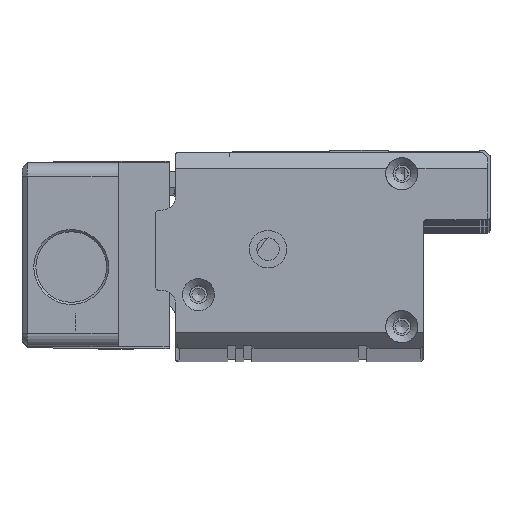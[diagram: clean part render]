
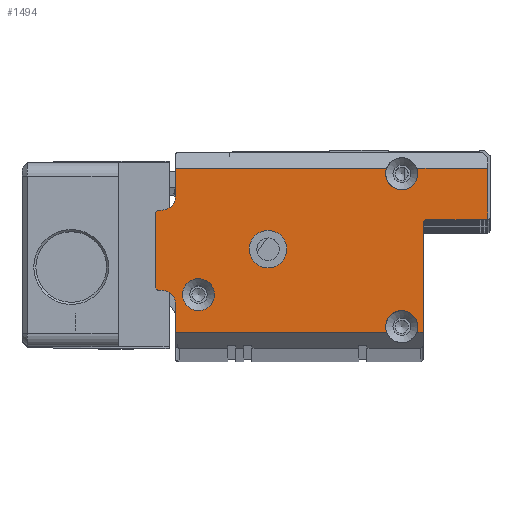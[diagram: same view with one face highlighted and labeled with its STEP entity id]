
A CAD part, top view. The second image highlights one B-rep face of the part: STEP entity #1494.
In plain terms, the highlighted planar face has unit normal (0, 0, 1).
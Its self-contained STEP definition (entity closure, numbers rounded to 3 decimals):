
#1494=ADVANCED_FACE('',(#6423,#6424,#6425),#2417,.T.);
#2417=PLANE('',#18089);
#2993=LINE('',#24957,#4707);
#2994=LINE('',#24959,#4708);
#2995=LINE('',#24963,#4709);
#2996=LINE('',#24967,#4710);
#2997=LINE('',#24969,#4711);
#2998=LINE('',#24973,#4712);
#2999=LINE('',#24975,#4713);
#3000=LINE('',#24979,#4714);
#3001=LINE('',#24983,#4715);
#3002=LINE('',#24987,#4716);
#3003=LINE('',#24991,#4717);
#3004=LINE('',#24993,#4718);
#4707=VECTOR('',#19803,1.);
#4708=VECTOR('',#19804,1.);
#4709=VECTOR('',#19807,1.);
#4710=VECTOR('',#19810,1.);
#4711=VECTOR('',#19811,1.);
#4712=VECTOR('',#19814,1.);
#4713=VECTOR('',#19815,1.);
#4714=VECTOR('',#19818,1.);
#4715=VECTOR('',#19821,1.);
#4716=VECTOR('',#19824,1.);
#4717=VECTOR('',#19827,1.);
#4718=VECTOR('',#19828,1.);
#6423=FACE_BOUND('',#6716,.T.);
#6424=FACE_BOUND('',#6717,.T.);
#6425=FACE_BOUND('',#6718,.T.);
#6716=EDGE_LOOP('',(#7808));
#6717=EDGE_LOOP('',(#7809,#7810,#7811,#7812,#7813,#7814,#7815,#7816,#7817,
#7818,#7819,#7820,#7821,#7822,#7823,#7824,#7825,#7826,#7827,#7828));
#6718=EDGE_LOOP('',(#7829));
#7808=ORIENTED_EDGE('',*,*,#14803,.T.);
#7809=ORIENTED_EDGE('',*,*,#14804,.T.);
#7810=ORIENTED_EDGE('',*,*,#14805,.T.);
#7811=ORIENTED_EDGE('',*,*,#14806,.T.);
#7812=ORIENTED_EDGE('',*,*,#14807,.T.);
#7813=ORIENTED_EDGE('',*,*,#14808,.T.);
#7814=ORIENTED_EDGE('',*,*,#14809,.T.);
#7815=ORIENTED_EDGE('',*,*,#14810,.T.);
#7816=ORIENTED_EDGE('',*,*,#14811,.T.);
#7817=ORIENTED_EDGE('',*,*,#14812,.T.);
#7818=ORIENTED_EDGE('',*,*,#14813,.T.);
#7819=ORIENTED_EDGE('',*,*,#14814,.T.);
#7820=ORIENTED_EDGE('',*,*,#14815,.T.);
#7821=ORIENTED_EDGE('',*,*,#14816,.T.);
#7822=ORIENTED_EDGE('',*,*,#14817,.T.);
#7823=ORIENTED_EDGE('',*,*,#14818,.T.);
#7824=ORIENTED_EDGE('',*,*,#14819,.T.);
#7825=ORIENTED_EDGE('',*,*,#14820,.T.);
#7826=ORIENTED_EDGE('',*,*,#14821,.T.);
#7827=ORIENTED_EDGE('',*,*,#14822,.T.);
#7828=ORIENTED_EDGE('',*,*,#14823,.T.);
#7829=ORIENTED_EDGE('',*,*,#14824,.T.);
#13028=VERTEX_POINT('',#24953);
#13029=VERTEX_POINT('',#24955);
#13030=VERTEX_POINT('',#24956);
#13031=VERTEX_POINT('',#24958);
#13032=VERTEX_POINT('',#24960);
#13033=VERTEX_POINT('',#24962);
#13034=VERTEX_POINT('',#24964);
#13035=VERTEX_POINT('',#24966);
#13036=VERTEX_POINT('',#24968);
#13037=VERTEX_POINT('',#24970);
#13038=VERTEX_POINT('',#24972);
#13039=VERTEX_POINT('',#24974);
#13040=VERTEX_POINT('',#24976);
#13041=VERTEX_POINT('',#24978);
#13042=VERTEX_POINT('',#24980);
#13043=VERTEX_POINT('',#24982);
#13044=VERTEX_POINT('',#24984);
#13045=VERTEX_POINT('',#24986);
#13046=VERTEX_POINT('',#24988);
#13047=VERTEX_POINT('',#24990);
#13048=VERTEX_POINT('',#24992);
#13049=VERTEX_POINT('',#24995);
#14803=EDGE_CURVE('',#13028,#13028,#17413,.T.);
#14804=EDGE_CURVE('',#13029,#13030,#17414,.T.);
#14805=EDGE_CURVE('',#13030,#13031,#2993,.T.);
#14806=EDGE_CURVE('',#13031,#13032,#2994,.T.);
#14807=EDGE_CURVE('',#13032,#13033,#17415,.T.);
#14808=EDGE_CURVE('',#13033,#13034,#2995,.T.);
#14809=EDGE_CURVE('',#13034,#13035,#17416,.T.);
#14810=EDGE_CURVE('',#13035,#13036,#2996,.T.);
#14811=EDGE_CURVE('',#13036,#13037,#2997,.T.);
#14812=EDGE_CURVE('',#13037,#13038,#17417,.T.);
#14813=EDGE_CURVE('',#13038,#13039,#2998,.T.);
#14814=EDGE_CURVE('',#13039,#13040,#2999,.T.);
#14815=EDGE_CURVE('',#13040,#13041,#17418,.T.);
#14816=EDGE_CURVE('',#13041,#13042,#3000,.T.);
#14817=EDGE_CURVE('',#13042,#13043,#17419,.T.);
#14818=EDGE_CURVE('',#13043,#13044,#3001,.T.);
#14819=EDGE_CURVE('',#13044,#13045,#17420,.T.);
#14820=EDGE_CURVE('',#13045,#13046,#3002,.T.);
#14821=EDGE_CURVE('',#13046,#13047,#17421,.T.);
#14822=EDGE_CURVE('',#13047,#13048,#3003,.T.);
#14823=EDGE_CURVE('',#13048,#13029,#3004,.T.);
#14824=EDGE_CURVE('',#13049,#13049,#17422,.T.);
#17413=CIRCLE('',#18079,3.);
#17414=CIRCLE('',#18080,3.);
#17415=CIRCLE('',#18081,0.5);
#17416=CIRCLE('',#18082,0.5);
#17417=CIRCLE('',#18083,3.);
#17418=CIRCLE('',#18084,2.5);
#17419=CIRCLE('',#18085,0.5);
#17420=CIRCLE('',#18086,0.5);
#17421=CIRCLE('',#18087,2.5);
#17422=CIRCLE('',#18088,3.5);
#18079=AXIS2_PLACEMENT_3D('',#24952,#19799,#19800);
#18080=AXIS2_PLACEMENT_3D('',#24954,#19801,#19802);
#18081=AXIS2_PLACEMENT_3D('',#24961,#19805,#19806);
#18082=AXIS2_PLACEMENT_3D('',#24965,#19808,#19809);
#18083=AXIS2_PLACEMENT_3D('',#24971,#19812,#19813);
#18084=AXIS2_PLACEMENT_3D('',#24977,#19816,#19817);
#18085=AXIS2_PLACEMENT_3D('',#24981,#19819,#19820);
#18086=AXIS2_PLACEMENT_3D('',#24985,#19822,#19823);
#18087=AXIS2_PLACEMENT_3D('',#24989,#19825,#19826);
#18088=AXIS2_PLACEMENT_3D('',#24994,#19829,#19830);
#18089=AXIS2_PLACEMENT_3D('',#24996,#19831,#19832);
#19799=DIRECTION('',(0.,0.,-1.));
#19800=DIRECTION('',(-1.,0.,0.));
#19801=DIRECTION('',(0.,0.,-1.));
#19802=DIRECTION('',(-1.,0.,0.));
#19803=DIRECTION('',(1.,0.,0.));
#19804=DIRECTION('',(0.,1.,0.));
#19805=DIRECTION('',(0.,0.,-1.));
#19806=DIRECTION('',(1.,0.,0.));
#19807=DIRECTION('',(1.,0.,0.));
#19808=DIRECTION('',(0.,0.,1.));
#19809=DIRECTION('',(1.,0.,0.));
#19810=DIRECTION('',(0.,1.,0.));
#19811=DIRECTION('',(-1.,0.,0.));
#19812=DIRECTION('',(0.,0.,-1.));
#19813=DIRECTION('',(-1.,0.,0.));
#19814=DIRECTION('',(-1.,0.,0.));
#19815=DIRECTION('',(0.,-1.,0.));
#19816=DIRECTION('',(0.,0.,-1.));
#19817=DIRECTION('',(1.,0.,0.));
#19818=DIRECTION('',(-1.,0.,0.));
#19819=DIRECTION('',(0.,0.,1.));
#19820=DIRECTION('',(1.,0.,0.));
#19821=DIRECTION('',(0.,-1.,0.));
#19822=DIRECTION('',(0.,0.,1.));
#19823=DIRECTION('',(1.,0.,0.));
#19824=DIRECTION('',(1.,0.,0.));
#19825=DIRECTION('',(0.,0.,-1.));
#19826=DIRECTION('',(1.,0.,0.));
#19827=DIRECTION('',(0.,-1.,0.));
#19828=DIRECTION('',(1.,0.,0.));
#19829=DIRECTION('',(0.,0.,-1.));
#19830=DIRECTION('',(-1.,0.,0.));
#19831=DIRECTION('',(0.,0.,1.));
#19832=DIRECTION('',(-1.,0.,0.));
#24952=CARTESIAN_POINT('',(8.,-26.6,8.));
#24953=CARTESIAN_POINT('',(5.,-26.6,8.));
#24954=CARTESIAN_POINT('',(46.,-32.6,8.));
#24955=CARTESIAN_POINT('',(43.172,-33.6,8.));
#24956=CARTESIAN_POINT('',(48.828,-33.6,8.));
#24957=CARTESIAN_POINT('',(50.,-33.6,8.));
#24958=CARTESIAN_POINT('',(50.,-33.6,8.));
#24959=CARTESIAN_POINT('',(50.,-36.6,8.));
#24960=CARTESIAN_POINT('',(50.,-13.1,8.));
#24961=CARTESIAN_POINT('',(50.5,-13.1,8.));
#24962=CARTESIAN_POINT('',(50.5,-12.6,8.));
#24963=CARTESIAN_POINT('',(50.,-12.6,8.));
#24964=CARTESIAN_POINT('',(61.6,-12.6,8.));
#24965=CARTESIAN_POINT('',(61.6,-12.1,8.));
#24966=CARTESIAN_POINT('',(62.1,-12.1,8.));
#24967=CARTESIAN_POINT('',(62.1,-12.6,8.));
#24968=CARTESIAN_POINT('',(62.1,-3.,8.));
#24969=CARTESIAN_POINT('',(3.7,-3.,8.));
#24970=CARTESIAN_POINT('',(48.828,-3.,8.));
#24971=CARTESIAN_POINT('',(46.,-4.,8.));
#24972=CARTESIAN_POINT('',(43.172,-3.,8.));
#24973=CARTESIAN_POINT('',(3.7,-3.,8.));
#24974=CARTESIAN_POINT('',(3.7,-3.,8.));
#24975=CARTESIAN_POINT('',(3.7,0.,8.));
#24976=CARTESIAN_POINT('',(3.7,-8.3,8.));
#24977=CARTESIAN_POINT('',(1.2,-8.3,8.));
#24978=CARTESIAN_POINT('',(1.2,-10.8,8.));
#24979=CARTESIAN_POINT('',(3.7,-10.8,8.));
#24980=CARTESIAN_POINT('',(0.5,-10.8,8.));
#24981=CARTESIAN_POINT('',(0.5,-11.3,8.));
#24982=CARTESIAN_POINT('',(0.,-11.3,8.));
#24983=CARTESIAN_POINT('',(0.,-10.8,8.));
#24984=CARTESIAN_POINT('',(0.,-25.3,8.));
#24985=CARTESIAN_POINT('',(0.5,-25.3,8.));
#24986=CARTESIAN_POINT('',(0.5,-25.8,8.));
#24987=CARTESIAN_POINT('',(0.,-25.8,8.));
#24988=CARTESIAN_POINT('',(1.2,-25.8,8.));
#24989=CARTESIAN_POINT('',(1.2,-28.3,8.));
#24990=CARTESIAN_POINT('',(3.7,-28.3,8.));
#24991=CARTESIAN_POINT('',(3.7,-25.8,8.));
#24992=CARTESIAN_POINT('',(3.7,-33.6,8.));
#24993=CARTESIAN_POINT('',(50.,-33.6,8.));
#24994=CARTESIAN_POINT('',(21.,-18.1,8.));
#24995=CARTESIAN_POINT('',(17.5,-18.1,8.));
#24996=CARTESIAN_POINT('',(0.,0.,8.));
